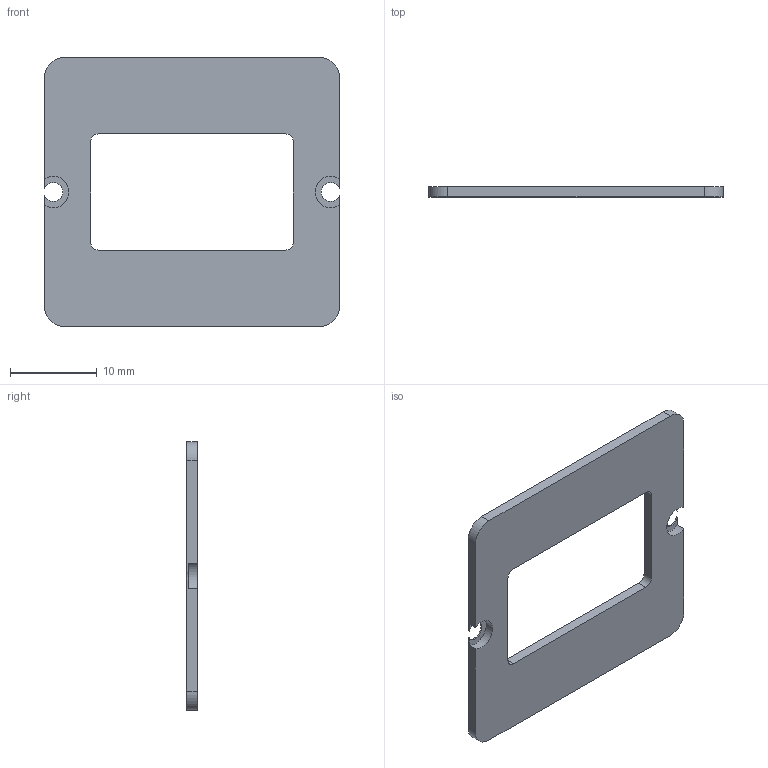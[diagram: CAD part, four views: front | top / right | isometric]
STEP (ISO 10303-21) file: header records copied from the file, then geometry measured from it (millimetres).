
FILE_DESCRIPTION(('Open CASCADE Model'),'2;1');
FILE_NAME('raised_oled_protective_bezel','2026-10-06T17:21:02',('Author' ),('Open CASCADE'),'Open CASCADE STEP processor 7.9','build123d', 'Unknown');
FILE_SCHEMA(('AUTOMOTIVE_DESIGN { 1 0 10303 214 1 1 1 1 }'));
Length unit declared in the file: millimetre
Products named in the file (2): raised_oled_protective_bezel
Assembly tree (1 placements, depth 2):
  raised_oled_protective_bezel
    raised_oled_protective_bezel
Bounding box: 34 x 1.2 x 31 mm (x, y, z)
Volume: 865.5 mm3; surface area: 1708.5 mm2
Topology: 1 solids, 1 shells, 26 faces, 72 edges, 48 vertices
Faces by surface type: plane 14, cylinder 12
Entity records: 1840 total; most frequent: CARTESIAN_POINT 428, DIRECTION 240, ORIENTED_EDGE 144, PCURVE 144, DEFINITIONAL_REPRESENTATION 144, LINE 128, VECTOR 128, EDGE_CURVE 72
